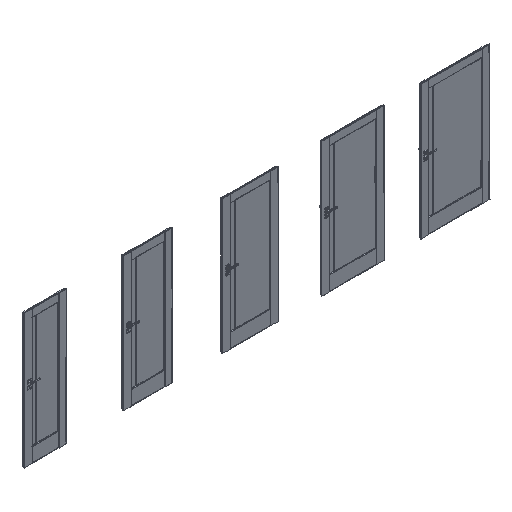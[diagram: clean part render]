
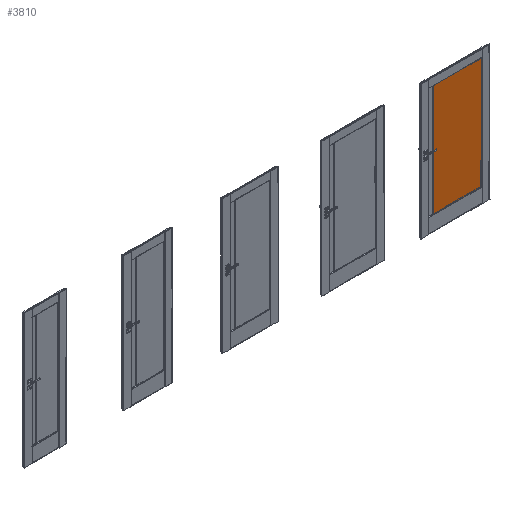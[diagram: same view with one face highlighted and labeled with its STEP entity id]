
A CAD part, isometric view. The second image highlights one B-rep face of the part: STEP entity #3810.
In plain terms, the highlighted planar face has unit normal (0, -1, 0).
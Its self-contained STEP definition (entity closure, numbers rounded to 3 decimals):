
#2319=FACE_OUTER_BOUND('',#7321,.T.);
#3810=ADVANCED_FACE('',(#2319),#5026,.T.);
#5026=PLANE('',#27966);
#7321=EDGE_LOOP('',(#12126,#12127,#12128,#12129));
#12126=ORIENTED_EDGE('',*,*,#20199,.F.);
#12127=ORIENTED_EDGE('',*,*,#20200,.F.);
#12128=ORIENTED_EDGE('',*,*,#20201,.T.);
#12129=ORIENTED_EDGE('',*,*,#20202,.T.);
#17114=VERTEX_POINT('',#42271);
#17115=VERTEX_POINT('',#42272);
#17116=VERTEX_POINT('',#42274);
#17117=VERTEX_POINT('',#42276);
#20199=EDGE_CURVE('',#17114,#17115,#23377,.T.);
#20200=EDGE_CURVE('',#17116,#17114,#23378,.T.);
#20201=EDGE_CURVE('',#17116,#17117,#23379,.T.);
#20202=EDGE_CURVE('',#17117,#17115,#23380,.T.);
#23377=LINE('',#42270,#25717);
#23378=LINE('',#42273,#25718);
#23379=LINE('',#42275,#25719);
#23380=LINE('',#42277,#25720);
#25717=VECTOR('',#33011,1.);
#25718=VECTOR('',#33012,1.);
#25719=VECTOR('',#33013,1.);
#25720=VECTOR('',#33014,1.);
#27966=AXIS2_PLACEMENT_3D('',#42278,#33015,#33016);
#33011=DIRECTION('',(1.,0.,0.));
#33012=DIRECTION('',(0.,0.,1.));
#33013=DIRECTION('',(1.,0.,0.));
#33014=DIRECTION('',(0.,0.,1.));
#33015=DIRECTION('',(0.,-1.,0.));
#33016=DIRECTION('',(0.,0.,-1.));
#42270=CARTESIAN_POINT('',(4965.,-26.15,1912.));
#42271=CARTESIAN_POINT('',(5882.25,-26.15,1912.));
#42272=CARTESIAN_POINT('',(6604.,-26.15,1912.));
#42273=CARTESIAN_POINT('',(5882.25,-26.15,206.5));
#42274=CARTESIAN_POINT('',(5882.25,-26.15,220.));
#42275=CARTESIAN_POINT('',(5882.25,-26.15,220.));
#42276=CARTESIAN_POINT('',(6604.,-26.15,220.));
#42277=CARTESIAN_POINT('',(6604.,-26.15,0.));
#42278=CARTESIAN_POINT('',(5882.25,-26.15,206.5));
